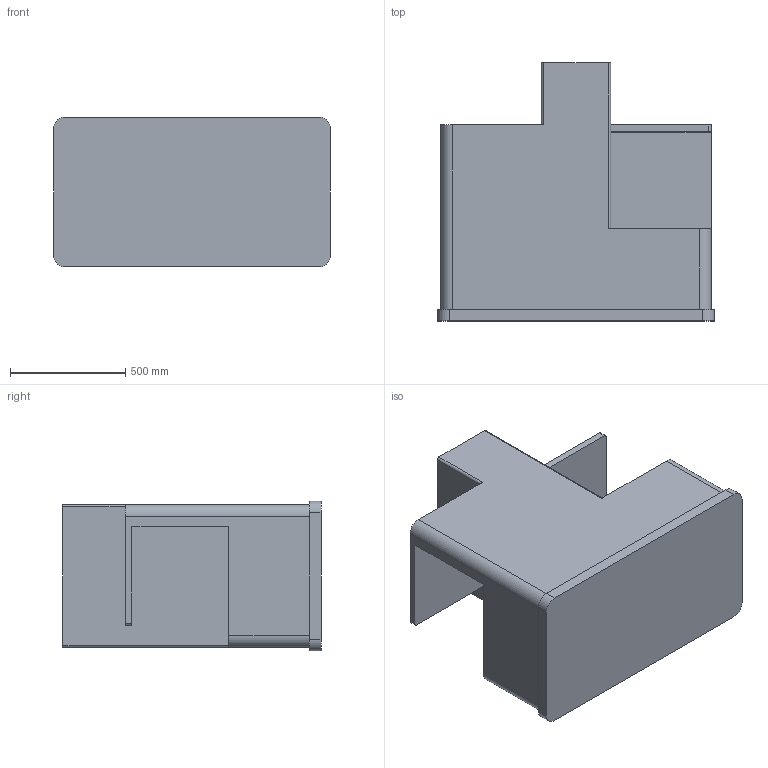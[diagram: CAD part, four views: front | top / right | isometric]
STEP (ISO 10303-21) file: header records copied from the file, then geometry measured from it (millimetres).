
FILE_DESCRIPTION (( 'STEP AP214' ), '1' );
FILE_NAME ('AMR.STEP', '2024-06-05T05:17:21', ( '' ), ( '' ), 'SwSTEP 2.0', 'SolidWorks 2020', '' );
FILE_SCHEMA (( 'AUTOMOTIVE_DESIGN' ));
Length unit declared in the file: millimetre
Products named in the file (1): AMR
Bounding box: 1200 x 1119 x 650 mm (x, y, z)
Volume: 474194536.3 mm3; surface area: 5791946.7 mm2
Topology: 1 solids, 1 shells, 45 faces, 114 edges, 76 vertices
Faces by surface type: plane 27, cylinder 18
Full cylindrical faces by diameter (mm): 13 x4
Entity records: 1378 total; most frequent: DIRECTION 238, CARTESIAN_POINT 232, ORIENTED_EDGE 220, EDGE_CURVE 110, AXIS2_PLACEMENT_3D 82, VERTEX_POINT 76, VECTOR 74, LINE 74
